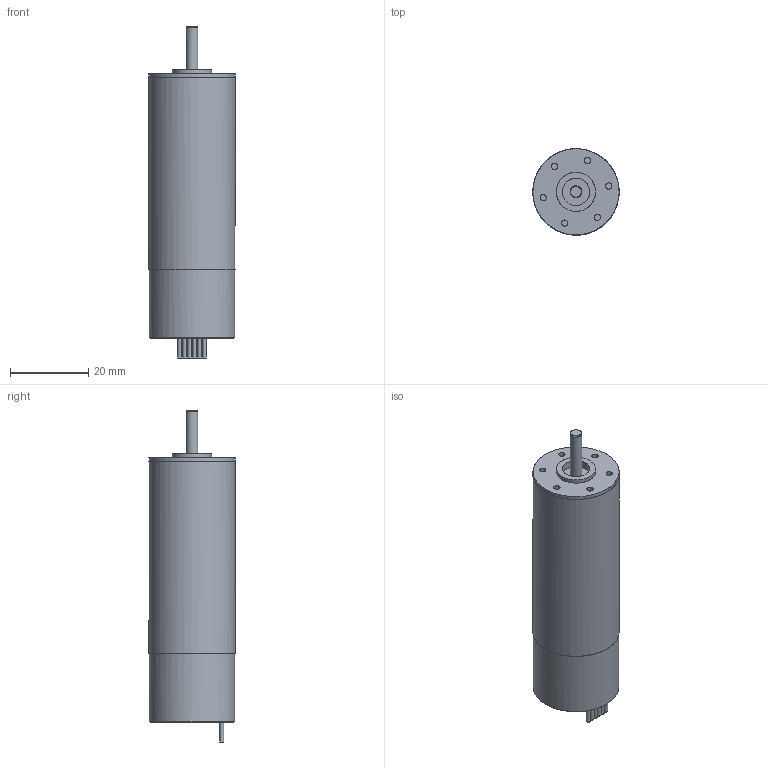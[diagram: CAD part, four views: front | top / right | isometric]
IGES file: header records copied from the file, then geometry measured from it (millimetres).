
Global section: file name: R:\a_public\Organisationsentwicklung\Aufgaben\CAD_Modelle_Vertrieb\Kombi\22xx_Bx4_SC\2250.BX4_SC.igs; native system: NX V7.5; preprocessor: SIEMENS PLM Software NX 7.5; author: DR. FRITZ FAULHABER GmbH & Co. KG; organization: DR. FRITZ FAULHABER GmbH & Co. KG; date: 20121031.073720; units: millimetre
Bounding box: 22.07 x 22.07 x 84.8 mm (x, y, z)
Surface area: 5817 mm2 (no closed solid volume)
Topology: 0 solids, 0 shells, 51 faces, 434 edges, 406 vertices
Faces by surface type: bspline 51
